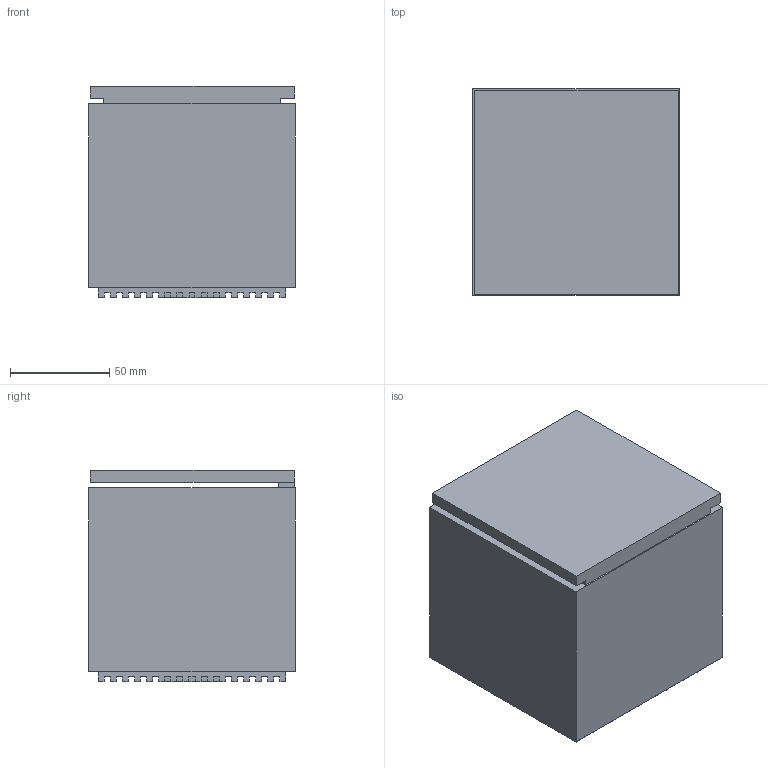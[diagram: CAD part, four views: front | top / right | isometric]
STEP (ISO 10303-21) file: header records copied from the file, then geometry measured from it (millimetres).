
FILE_DESCRIPTION((''),'2;1');
FILE_NAME('CINIENILS-CUBOLUCE3D','2011-09-06T',('clostaglio'),(''),'PRO/ENGINEER BY PARAMETRIC TECHNOLOGY CORPORATION, 2011080','PRO/ENGINEER BY PARAMETRIC TECHNOLOGY CORPORATION, 2011080','');
FILE_SCHEMA(('CONFIG_CONTROL_DESIGN'));
Length unit declared in the file: millimetre
Products named in the file (1): CINIENILS-CUBOLUCE3D
Bounding box: 104 x 104 x 106.25 mm (x, y, z)
Volume: 1091070.6 mm3; surface area: 96774.8 mm2
Topology: 1 solids, 1 shells, 2138 faces, 5088 edges, 2954 vertices
Faces by surface type: plane 2138
Entity records: 58678 total; most frequent: CARTESIAN_POINT 10180, ORIENTED_EDGE 10176, DIRECTION 9364, VECTOR 5088, LINE 5088, EDGE_CURVE 5088, VERTEX_POINT 2954, EDGE_LOOP 2140
